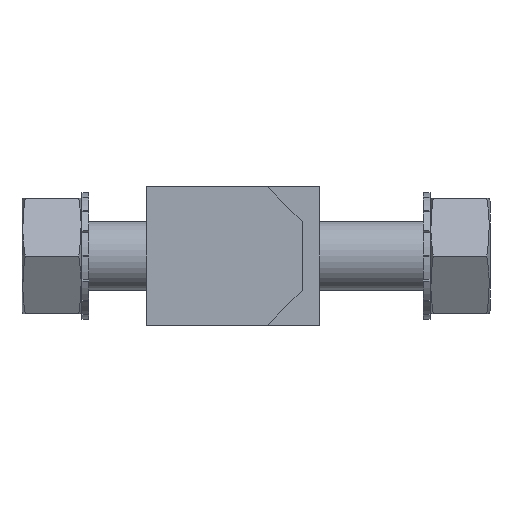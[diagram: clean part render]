
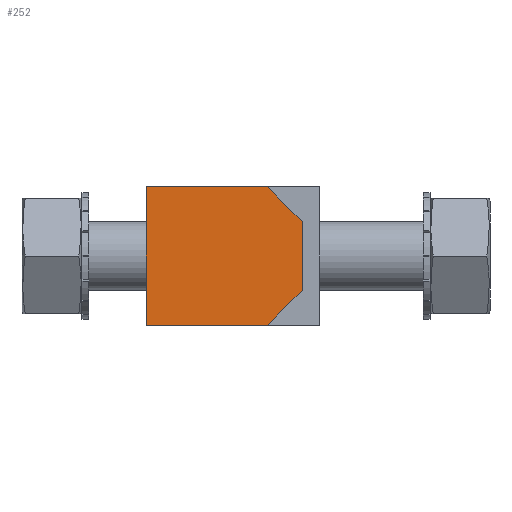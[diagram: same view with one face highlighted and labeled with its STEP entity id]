
A CAD part, front view. The second image highlights one B-rep face of the part: STEP entity #252.
In plain terms, the highlighted planar face has unit normal (0, -1, 0).
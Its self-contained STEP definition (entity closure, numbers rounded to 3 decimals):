
#252 = ADVANCED_FACE( '', ( #421 ), #422, .F. );
#421 = FACE_OUTER_BOUND( '', #722, .T. );
#422 = PLANE( '', #723 );
#722 = EDGE_LOOP( '', ( #1112, #1113, #1114, #1115, #1116, #1117 ) );
#723 = AXIS2_PLACEMENT_3D( '', #1118, #1119, #1120 );
#1112 = ORIENTED_EDGE( '', *, *, #2011, .F. );
#1113 = ORIENTED_EDGE( '', *, *, #2028, .F. );
#1114 = ORIENTED_EDGE( '', *, *, #2025, .F. );
#1115 = ORIENTED_EDGE( '', *, *, #2022, .F. );
#1116 = ORIENTED_EDGE( '', *, *, #2019, .F. );
#1117 = ORIENTED_EDGE( '', *, *, #2016, .F. );
#1118 = CARTESIAN_POINT( '', ( 0., -19.6, 0. ) );
#1119 = DIRECTION( '', ( 0., 1., 0. ) );
#1120 = DIRECTION( '', ( 0., 0., 1. ) );
#2011 = EDGE_CURVE( '', #2338, #2339, #2340, .T. );
#2016 = EDGE_CURVE( '', #2339, #2348, #2349, .T. );
#2019 = EDGE_CURVE( '', #2348, #2353, #2354, .T. );
#2022 = EDGE_CURVE( '', #2353, #2358, #2359, .T. );
#2025 = EDGE_CURVE( '', #2358, #2363, #2364, .T. );
#2028 = EDGE_CURVE( '', #2363, #2338, #2368, .T. );
#2338 = VERTEX_POINT( '', #2862 );
#2339 = VERTEX_POINT( '', #2863 );
#2340 = LINE( '', #2864, #2865 );
#2348 = VERTEX_POINT( '', #2876 );
#2349 = LINE( '', #2877, #2878 );
#2353 = VERTEX_POINT( '', #2884 );
#2354 = LINE( '', #2885, #2886 );
#2358 = VERTEX_POINT( '', #2892 );
#2359 = LINE( '', #2893, #2894 );
#2363 = VERTEX_POINT( '', #2900 );
#2364 = LINE( '', #2901, #2902 );
#2368 = LINE( '', #2908, #2909 );
#2862 = CARTESIAN_POINT( '', ( 3., -19.6, -6. ) );
#2863 = CARTESIAN_POINT( '', ( -7.5, -19.6, -6. ) );
#2864 = CARTESIAN_POINT( '', ( 3., -19.6, -6. ) );
#2865 = VECTOR( '', #3611, 1000. );
#2876 = CARTESIAN_POINT( '', ( -7.5, -19.6, 6. ) );
#2877 = CARTESIAN_POINT( '', ( -7.5, -19.6, -6. ) );
#2878 = VECTOR( '', #3618, 1000. );
#2884 = CARTESIAN_POINT( '', ( 3., -19.6, 6. ) );
#2885 = CARTESIAN_POINT( '', ( -7.5, -19.6, 6. ) );
#2886 = VECTOR( '', #3621, 1000. );
#2892 = CARTESIAN_POINT( '', ( 6., -19.6, 3. ) );
#2893 = CARTESIAN_POINT( '', ( 3., -19.6, 6. ) );
#2894 = VECTOR( '', #3624, 1000. );
#2900 = CARTESIAN_POINT( '', ( 6., -19.6, -3. ) );
#2901 = CARTESIAN_POINT( '', ( 6., -19.6, 3. ) );
#2902 = VECTOR( '', #3627, 1000. );
#2908 = CARTESIAN_POINT( '', ( 6., -19.6, -3. ) );
#2909 = VECTOR( '', #3630, 1000. );
#3611 = DIRECTION( '', ( -1., 0., 0. ) );
#3618 = DIRECTION( '', ( 0., 0., 1. ) );
#3621 = DIRECTION( '', ( 1., 0., 0. ) );
#3624 = DIRECTION( '', ( 0.707, 0., -0.707 ) );
#3627 = DIRECTION( '', ( 0., 0., -1. ) );
#3630 = DIRECTION( '', ( -0.707, 0., -0.707 ) );
